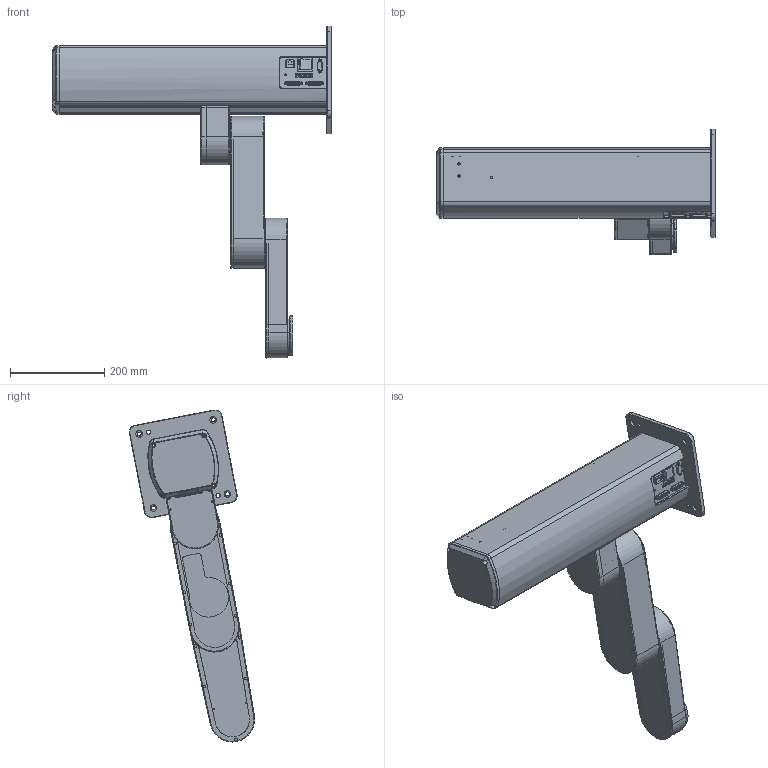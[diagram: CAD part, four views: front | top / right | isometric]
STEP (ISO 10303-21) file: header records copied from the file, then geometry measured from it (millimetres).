
FILE_DESCRIPTION(('CATIA V5 STEP Exchange'),'2;1');
FILE_NAME('F:\LYJ 工作文件\机械臂系列\Z-Arm 2140\PA上下同步带模块设计\V9.5 双导轨\打包\发海豚确认\简化图\简图\Z-Arm 2442 V1.0.0.stp','2020-08-14T03:07:25+00:00',('none'),('none'),'CATIA Version 5 Release 20 GA (IN-10)','CATIA V5 STEP AP203','none');
FILE_SCHEMA(('CONFIG_CONTROL_DESIGN'));
Products named in the file (1): 产品1
Assembly tree (3 placements, depth 2):
  产品1
    #58
    #42284
    #50526
Bounding box: 593 x 266.1 x 705.08 mm (x, y, z)
Volume: 6220093.1 mm3; surface area: 1309266.3 mm2
Topology: 37 solids, 37 shells, 2053 faces, 5309 edges, 3449 vertices
Faces by surface type: cylinder 959, plane 825, cone 205, torus 41, bspline 13, extrusion 6, revolution 4
Entity records: 59691 total; most frequent: CARTESIAN_POINT 12226, ORIENTED_EDGE 10546, DIRECTION 7871, EDGE_CURVE 5273, AXIS2_PLACEMENT_3D 3572, VERTEX_POINT 3449, VECTOR 2893, LINE 2887
